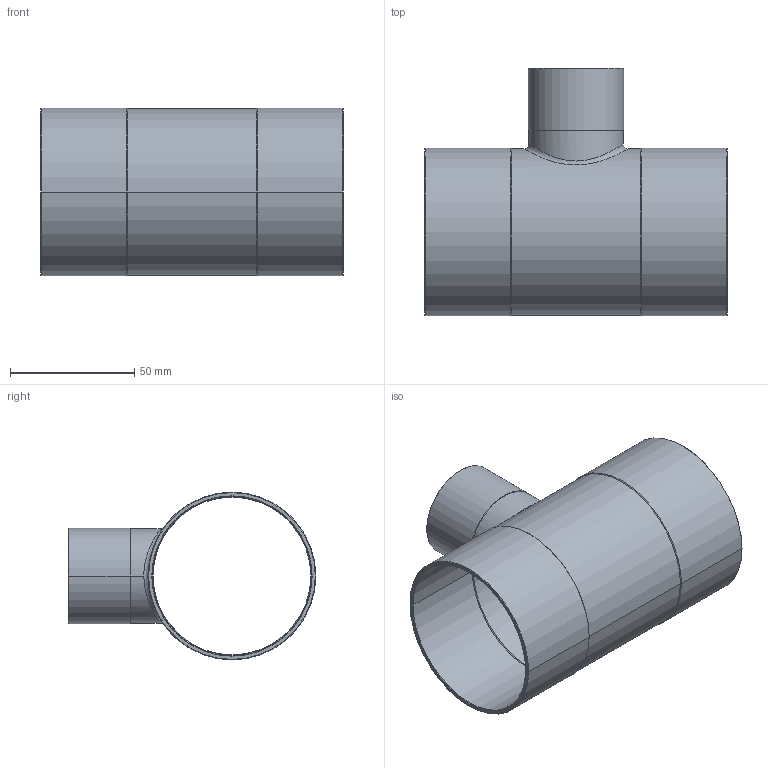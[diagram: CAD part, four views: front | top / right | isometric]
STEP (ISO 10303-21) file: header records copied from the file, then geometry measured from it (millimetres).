
FILE_DESCRIPTION((''),'2;1');
FILE_NAME('G:\Technics\CAD\Bauteile\15130\15130643564.stp','2005-11-02T10:19:57',('boden'),(''),'Autodesk Inventor 8','Autodesk Inventor 8','');
FILE_SCHEMA(('AUTOMOTIVE_DESIGN { 1 0 10303 214 1 1 1 1 }'));
Length unit declared in the file: millimetre
Products named in the file (1): 15130643564
Bounding box: 122 x 99.8 x 67.6 mm (x, y, z)
Volume: 47958.9 mm3; surface area: 57207.5 mm2
Topology: 1 solids, 1 shells, 49 faces, 108 edges, 60 vertices
Faces by surface type: cone 24, cylinder 20, plane 3, bspline 2
Entity records: 1717 total; most frequent: CARTESIAN_POINT 610, DIRECTION 242, ORIENTED_EDGE 216, EDGE_CURVE 108, AXIS2_PLACEMENT_3D 98, VERTEX_POINT 60, EDGE_LOOP 52, CIRCLE 50
